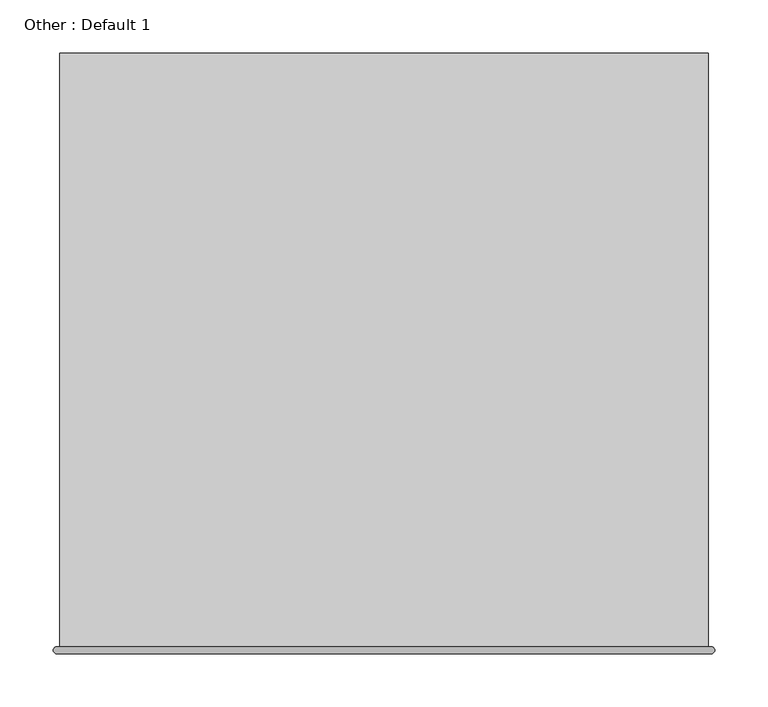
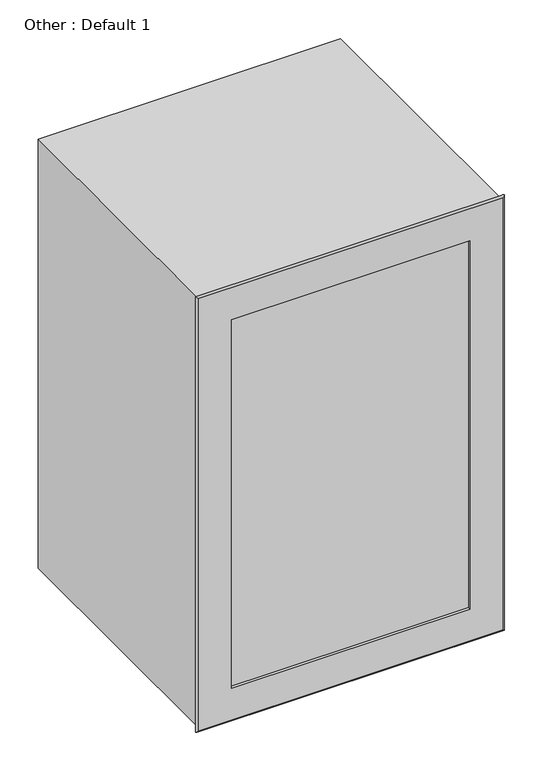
"""IFC4 building model written with IfcOpenShell, lengths in millimetres: proxy geometry, Other : Default 1."""

from ifc_helpers import new_model, si_unit, frame, origin, origin_with_axes, place, context, project, spatial, polyline, ellipse_curve, outline, extrude, source, transform, mapped, element, save
from ifc_brep_helpers import plane_surface, cylinder_surface, advanced_brep


def other_default_1_57568a5f(model_context):
    return source(origin(), model_context, "Body", "SolidModel", [
        extrude(outline(polyline([(304.8, -100.0), (304.8, -658.8), (-304.8, -658.8), (-304.8, -100.0), (304.8, -100.0)])), origin_with_axes(), (0.0, 0.0, 1.0), 914.4),
        advanced_brep(
        [(240.4, -665.15, 850.0), (240.4, -658.8, 850.0), (240.4, -658.8, 64.4), (240.4, -665.15, 64.4), (307.975, -658.8, 917.575), (307.975, -665.15, 917.575), (307.975, -665.15, -3.175), (307.975, -658.8, -3.175), (-240.4, -658.8, 64.4), (-240.4, -665.15, 64.4), (-307.975, -665.15, -3.175), (-307.975, -658.8, -3.175), (-240.4, -658.8, 850.0), (-240.4, -665.15, 850.0), (-307.975, -665.15, 917.575), (-307.975, -658.8, 917.575)],
        [
            (0, 1),
            (1, 2),
            (2, 3),
            (3, 0),
            (4, 5, ellipse_curve(frame((307.975, -661.975, 917.575), z_axis=(0.7071067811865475, 0.0, -0.7071067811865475), x_axis=(0.7071067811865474, 0.0, 0.7071067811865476)), 4.4901281, 3.175)),
            (5, 6),
            (6, 7, ellipse_curve(frame((307.975, -661.975, -3.175), z_axis=(0.7071067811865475, 0.0, 0.7071067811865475), x_axis=(-0.7071067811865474, 0.0, 0.7071067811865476)), 4.4901281, 3.175)),
            (7, 4),
            (2, 8),
            (8, 9),
            (9, 3),
            (6, 10),
            (10, 11, ellipse_curve(frame((-307.975, -661.975, -3.175), z_axis=(0.7071067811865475, 0.0, -0.7071067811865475), x_axis=(0.7071067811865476, 0.0, 0.7071067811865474)), 4.4901281, 3.175)),
            (11, 7),
            (8, 12),
            (12, 13),
            (13, 9),
            (10, 14),
            (14, 15, ellipse_curve(frame((-307.975, -661.975, 917.575), z_axis=(-0.7071067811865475, 0.0, -0.7071067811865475), x_axis=(0.7071067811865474, 0.0, -0.7071067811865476)), 4.4901281, 3.175)),
            (15, 11),
            (12, 1),
            (0, 13),
            (5, 14),
            (4, 15),
        ],
        [
            plane_surface(frame((240.4, -658.8, 850.0), z_axis=(-1.0, 0.0, 0.0), x_axis=(0.0, 0.0, -1.0))),
            cylinder_surface(frame((307.975, -661.975, 914.4), z_axis=(0.0, 0.0, 1.0), x_axis=(0.0, 1.0, 0.0)), 3.175),
            plane_surface(frame((240.4, -658.8, 64.4), z_axis=(0.0, 0.0, 1.0), x_axis=(-1.0, 0.0, 0.0))),
            cylinder_surface(frame((304.8, -661.975, -3.175), z_axis=(1.0, 0.0, 0.0), x_axis=(0.0, 1.0, 0.0)), 3.175),
            plane_surface(frame((-240.4, -658.8, 64.4), z_axis=(1.0, 0.0, 0.0), x_axis=(0.0, 0.0, 1.0))),
            cylinder_surface(frame((-307.975, -661.975, 0.0), z_axis=(0.0, 0.0, -1.0), x_axis=(0.0, 1.0, 0.0)), 3.175),
            plane_surface(frame((-240.4, -658.8, 850.0), z_axis=(0.0, 0.0, -1.0), x_axis=(1.0, 0.0, 0.0))),
            plane_surface(frame((-240.4, -665.15, 850.0), z_axis=(0.0, -1.0, 0.0), x_axis=(1.0, 0.0, 0.0))),
            cylinder_surface(frame((-304.8, -661.975, 917.575), z_axis=(-1.0, 0.0, 0.0), x_axis=(0.0, 1.0, 0.0)), 3.175),
            plane_surface(frame((-307.975, -658.8, 917.575), z_axis=(0.0, 1.0, 0.0), x_axis=(1.0, 0.0, 0.0))),
        ],
        [
            (0, [[1, 2, 3, 4]]),
            (1, [[5, 6, 7, 8]]),
            (2, [[-3, 9, 10, 11]]),
            (3, [[-7, 12, 13, 14]]),
            (4, [[-10, 15, 16, 17]]),
            (5, [[-13, 18, 19, 20]]),
            (6, [[-16, 21, -1, 22]]),
            (7, [[23, -18, -12, -6], [-11, -17, -22, -4]]),
            (8, [[-19, -23, -5, 24]]),
            (9, [[-14, -20, -24, -8], [-21, -15, -9, -2]]),
        ],
    ),
    ])


if __name__ == "__main__":
    model = new_model("IFC4")
    model_context = context("Model", 3, world=origin())
    ifc_project = project(units=[si_unit("LENGTHUNIT", "METRE", prefix="MILLI")], contexts=[model_context])
    site = spatial("IfcSite", under=ifc_project)
    building = spatial("IfcBuilding", under=site)
    placement = place(None, origin())
    other_default_1_shape = other_default_1_57568a5f(model_context)
    element("IfcBuildingElementProxy", 1, Name="Other : Default 1", ObjectType="Other : Default 1", at=placement, inside=building, context=model_context, shape_type="MappedRepresentation", body=[
        mapped(other_default_1_shape, transform((0.0, 0.0, 0.0), x_axis=(1.0, 0.0, 0.0), y_axis=(0.0, 1.0, 0.0), z_axis=(0.0, 0.0, 1.0))),
    ])
    save(model, "model.ifc")
